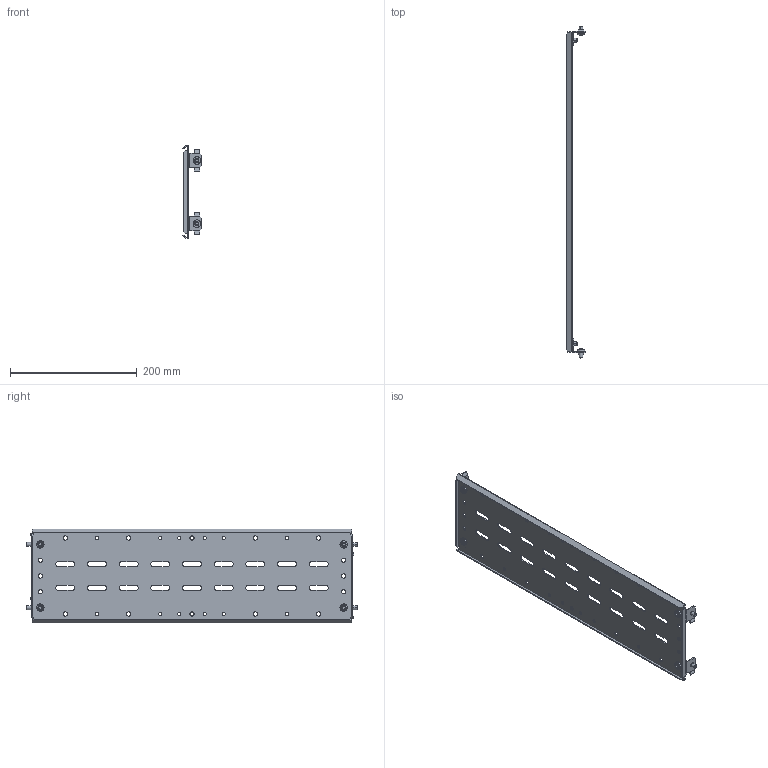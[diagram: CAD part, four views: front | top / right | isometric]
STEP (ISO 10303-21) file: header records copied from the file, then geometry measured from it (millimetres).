
FILE_DESCRIPTION (( 'STEP AP214' ), '1' );
FILE_NAME ('FO-00-SWF-015-060 Ïåðåãîðîäêà ñåêöèîíèðîâàíèÿ çàäíÿÿ 150õ600 ìì.STEP', '2025-08-12T08:42:07', ( '' ), ( '' ), 'SwSTEP 2.0', 'SolidWorks 2023', '' );
FILE_SCHEMA (( 'AUTOMOTIVE_DESIGN' ));
Length unit declared in the file: millimetre
Products named in the file (1): FO-00-SWF-015-060 Перегородка секционирования задняя 150х600 мм
Bounding box: 30.52 x 524 x 147.66 mm (x, y, z)
Volume: 131961.2 mm3; surface area: 172567.4 mm2
Topology: 1 solids, 5 shells, 550 faces, 1492 edges, 972 vertices
Faces by surface type: cylinder 286, plane 208, cone 24, torus 24, sphere 8
Entity records: 17787 total; most frequent: CARTESIAN_POINT 3283, DIRECTION 3114, ORIENTED_EDGE 2984, EDGE_CURVE 1492, AXIS2_PLACEMENT_3D 1139, VERTEX_POINT 972, VECTOR 836, LINE 836
